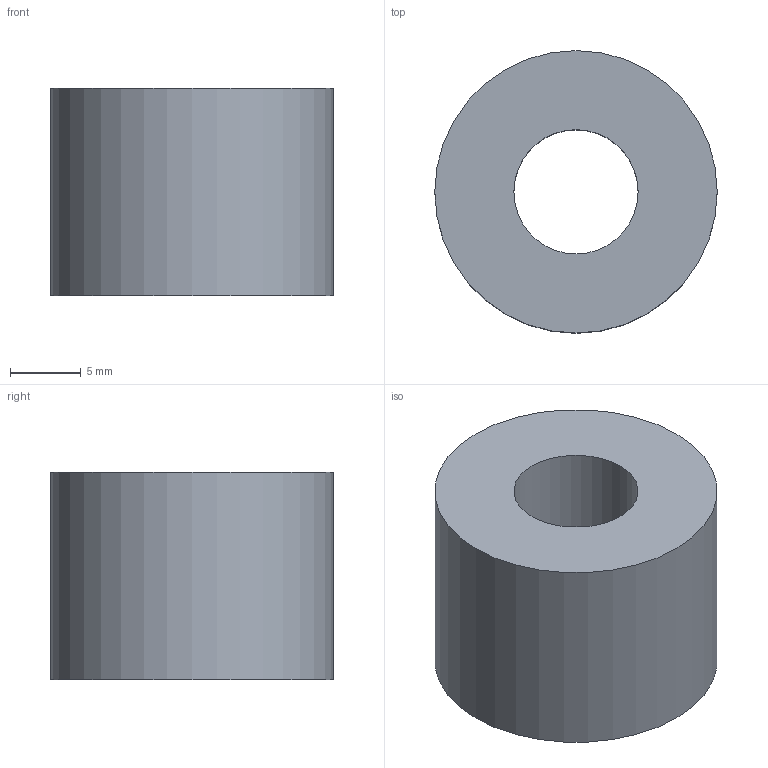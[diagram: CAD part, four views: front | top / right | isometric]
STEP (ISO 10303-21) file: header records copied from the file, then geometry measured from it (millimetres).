
FILE_DESCRIPTION(('Open CASCADE Model'),'2;1');
FILE_NAME('Open CASCADE Shape Model','2026-09-13T15:34:21',('Author'),( 'Open CASCADE'),'Open CASCADE STEP processor 7.9','build123d', 'Unknown');
FILE_SCHEMA(('AUTOMOTIVE_DESIGN { 1 0 10303 214 1 1 1 1 }'));
Length unit declared in the file: millimetre
Products named in the file (1): COMPOUND
Bounding box: 20 x 20 x 14.7 mm (x, y, z)
Volume: 3724.1 mm3; surface area: 1836.7 mm2
Topology: 1 solids, 1 shells, 4 faces, 6 edges, 4 vertices
Faces by surface type: cylinder 2, plane 2
Full cylindrical faces by diameter (mm): 8.8 x1, 20 x1
Entity records: 186 total; most frequent: DIRECTION 32, CARTESIAN_POINT 27, ORIENTED_EDGE 12, PCURVE 12, DEFINITIONAL_REPRESENTATION 12, LINE 10, VECTOR 10, AXIS2_PLACEMENT_3D 9
